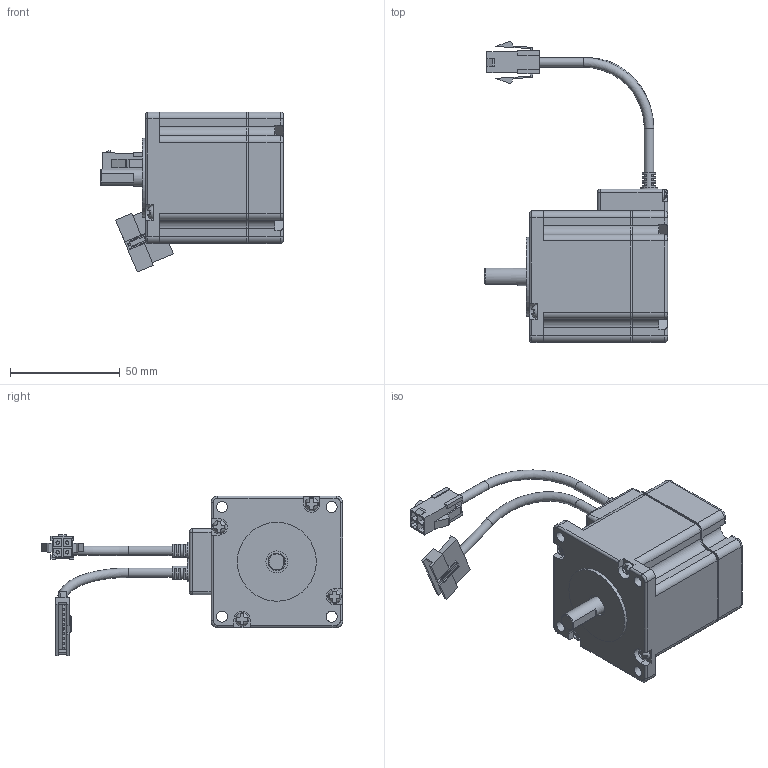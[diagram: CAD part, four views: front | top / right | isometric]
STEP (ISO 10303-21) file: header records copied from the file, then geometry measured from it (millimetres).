
FILE_DESCRIPTION(/* description */ (''),/* implementation_level */ '2;1');
FILE_NAME(/* name */ '\\EMN0D5F01\rp_inventor\RP Mechanical Design\Wiley\Updated Models\eCLM-P601A.stp',/* time_stamp */ '2016-10-27T15:21:54-07:00',/* author */ ('JDB'),/* organization */ ('Parker Hannifin Corp'),/* preprocessor_version */ 'ST-DEVELOPER v15.2',/* originating_system */ 'Autodesk Inventor 2014',/* authorisation */ '');
FILE_SCHEMA (('CONFIG_CONTROL_DESIGN'));
Length unit declared in the file: inch
Products named in the file (1): eCLM-P601A_sw
Bounding box: 83.6 x 137.41 x 72.95 mm (x, y, z)
Volume: 179629.3 mm3; surface area: 46307.9 mm2
Topology: 3 solids, 3 shells, 889 faces, 2314 edges, 1488 vertices
Faces by surface type: plane 596, cylinder 204, cone 36, torus 27, bspline 14, sphere 12
Full cylindrical faces by diameter (mm): 1 x9, 1.5 x4, 1.6 x4, 2.1 x4, 2.3 x2, 2.4 x7, 3 x2, 3.4 x1, 4 x5, 4.3 x4, 5 x5, 6 x4, 8 x3, 9.2 x1, 10 x2, 17.5 x1, 36 x1
Entity records: 27012 total; most frequent: CARTESIAN_POINT 5432, DIRECTION 4526, ORIENTED_EDGE 4370, EDGE_CURVE 2183, AXIS2_PLACEMENT_3D 1563, VERTEX_POINT 1447, LINE 1400, VECTOR 1400
